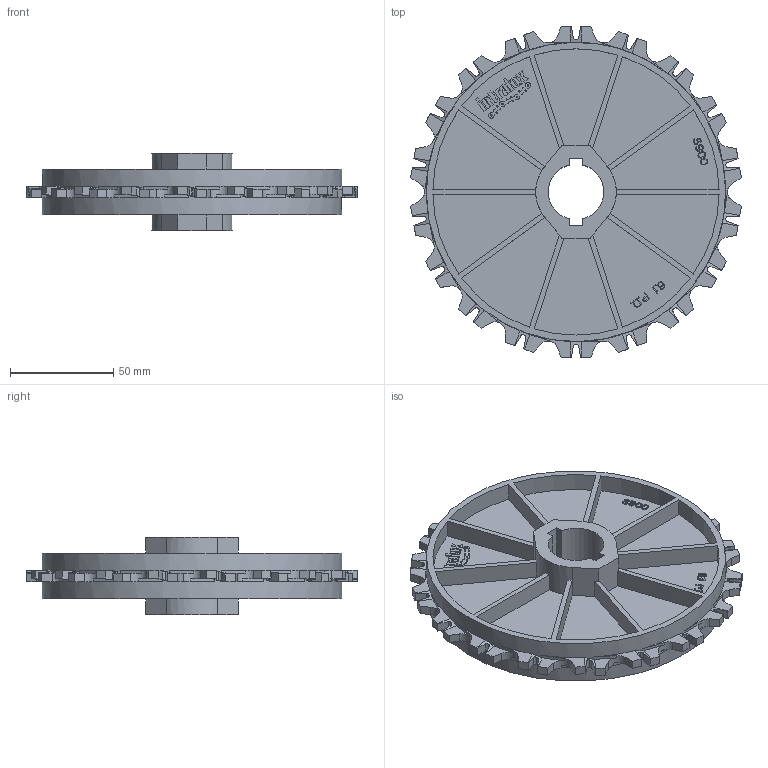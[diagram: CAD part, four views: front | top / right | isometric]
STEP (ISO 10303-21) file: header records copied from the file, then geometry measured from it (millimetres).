
FILE_DESCRIPTION((''),'2;1');
FILE_NAME('S900_SPROCKET_61X1_PILOT','2008-12-12T',('jmumphre'),(''),'PRO/ENGINEER BY PARAMETRIC TECHNOLOGY CORPORATION, 2008150','PRO/ENGINEER BY PARAMETRIC TECHNOLOGY CORPORATION, 2008150','');
FILE_SCHEMA(('CONFIG_CONTROL_DESIGN'));
Length unit declared in the file: inch
Products named in the file (1): S900_SPROCKET_61X1_PILOT
Bounding box: 160.28 x 160.22 x 37.59 mm (x, y, z)
Volume: 152413.5 mm3; surface area: 79991.1 mm2
Topology: 1 solids, 1 shells, 1005 faces, 2904 edges, 1936 vertices
Faces by surface type: plane 832, cylinder 173
Entity records: 32823 total; most frequent: CARTESIAN_POINT 6152, ORIENTED_EDGE 5808, DIRECTION 5176, EDGE_CURVE 2904, VECTOR 2426, LINE 2426, VERTEX_POINT 1936, AXIS2_PLACEMENT_3D 1375
